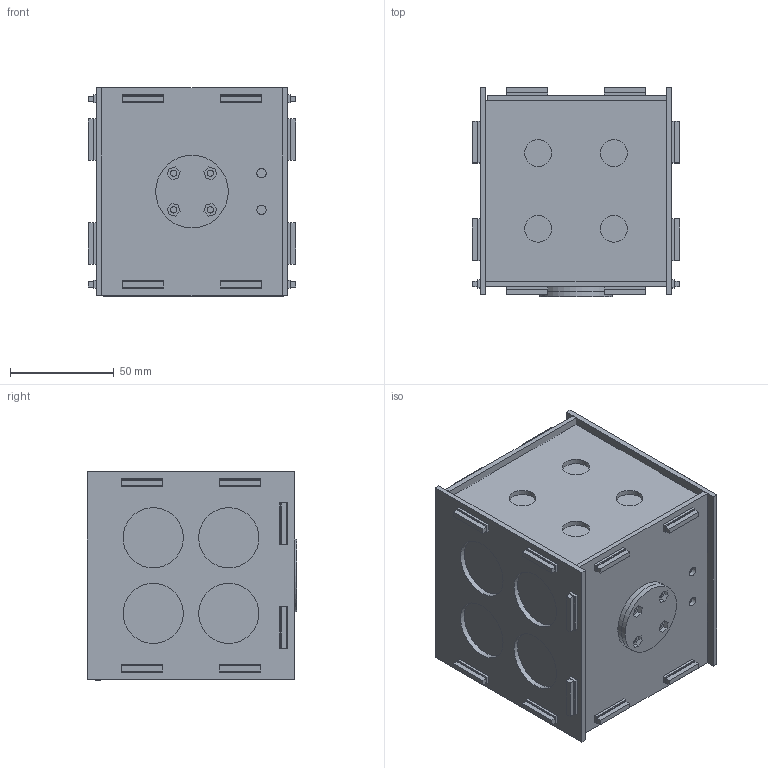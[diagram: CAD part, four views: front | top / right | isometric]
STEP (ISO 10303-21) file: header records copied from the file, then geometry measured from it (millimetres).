
FILE_DESCRIPTION(/* description */ (''),/* implementation_level */ '2;1');
FILE_NAME(/* name */ 'C:\Users\valen\Desktop\Estandar CubeSat - Programa AVES-20220531T050024Z-001\Estandar CubeSat - Programa AVES\3D - MODELS\STEP\Cubesat_Ensamble_no explosionado.stp',/* time_stamp */ '2022-05-31T02:28:07-05:00',/* author */ ('valen'),/* organization */ (''),/* preprocessor_version */ 'ST-DEVELOPER v18.1',/* originating_system */ 'Autodesk Inventor 2022',/* authorisation */ '');
FILE_SCHEMA (('AUTOMOTIVE_DESIGN { 1 0 10303 214 3 1 1 }'));
Length unit declared in the file: millimetre
Products named in the file (11): Cubesat_Ensamble_no explosionado; Volumen interno ; Frontal; Tubos supCara 1 (4 unidades); Posteri0r; Tubos supCara 1 (4 unidades)_1; Lateral 1; Inferior; 7. Arandela; 8. Soporte tuercas; Oring
Assembly tree (29 placements, depth 2):
  Cubesat_Ensamble_no explosionado
    Volumen interno 
    Frontal
    Tubos supCara 1 (4 unidades)
    Posteri0r
    Tubos supCara 1 (4 unidades)_1
    Lateral 1
    Inferior
    7. Arandela
    8. Soporte tuercas
    Oring  x20
Bounding box: 100 x 100.96 x 100.41 mm (x, y, z)
Volume: 118077.8 mm3; surface area: 171406 mm2
Topology: 28 solids, 30 shells, 624 faces, 1624 edges, 1056 vertices
Faces by surface type: plane 472, cylinder 152
Full cylindrical faces by diameter (mm): 3 x8, 4.5 x2, 13 x8, 29 x12, 35 x2
Entity records: 12328 total; most frequent: CARTESIAN_POINT 2093, ORIENTED_EDGE 2016, DIRECTION 1962, EDGE_CURVE 1016, LINE 868, VECTOR 868, VERTEX_POINT 676, AXIS2_PLACEMENT_3D 547
